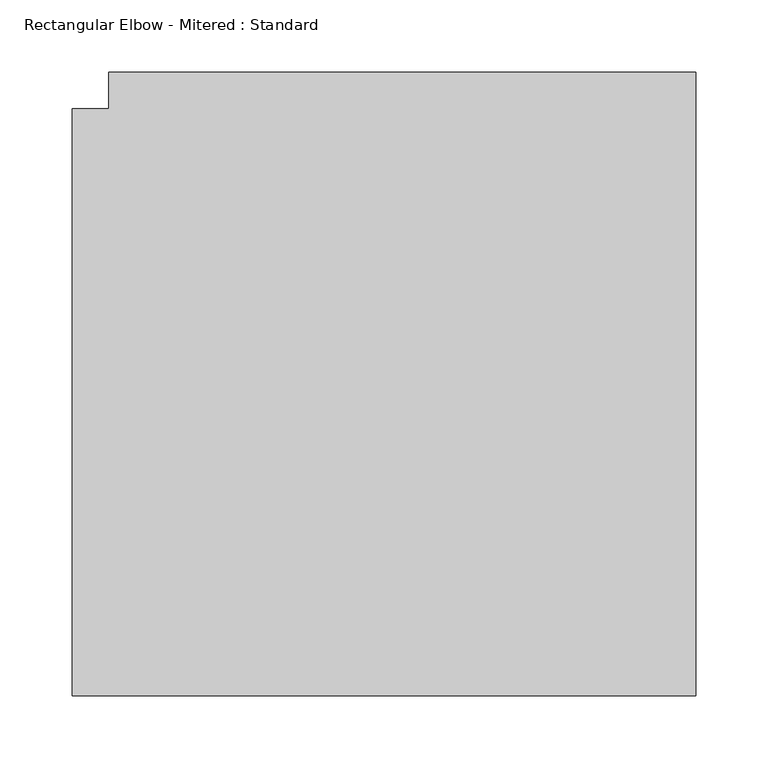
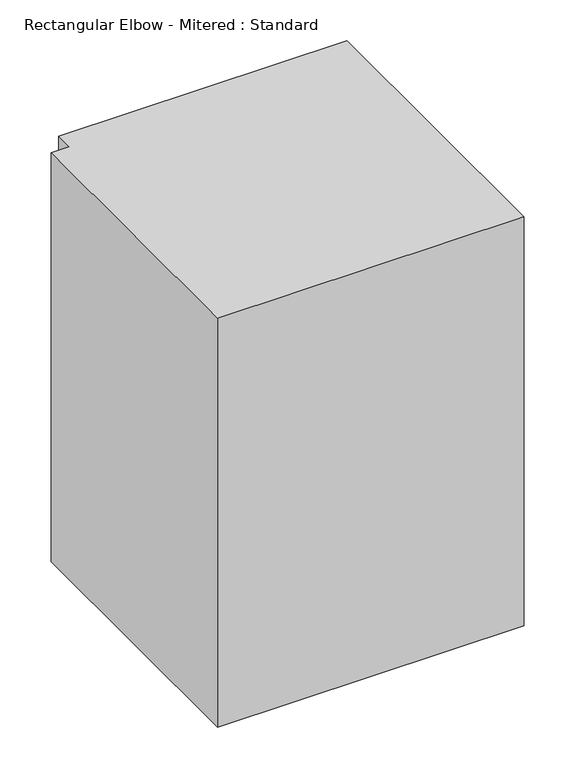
"""IFC4 building model written with IfcOpenShell, lengths in millimetres: duct fitting geometry, Rectangular Elbow - Mitered : Standard."""

import ifcopenshell
import ifcopenshell.guid

model = None  # the IFC model being written
_history = None  # IfcOwnerHistory: only IFC2X3 demands one
_inside = {}  # id of a spatial element -> (the spatial element, [elements in it])
_under = {}  # id of a project, library or spatial element -> (it, [spatial elements below it])
_declared = {}  # id of a project -> (the project, [libraries it declares])
_typed = {}  # id of a type object -> (the type object, [elements of that type])
_made_of = {}  # id of a material, layer set ... -> (it, [elements and type objects made of it])


def new_model(schema):
    """Start an empty IFC model of exactly this schema.

    Asked for "IFC4X3", IfcOpenShell would pick the latest addendum, in which some entities
    have other attributes; the version numbers below select the first issue.
    IFC2X3 requires an IfcOwnerHistory on every rooted entity: one is made here for all.
    """
    global model, _history
    if schema == "IFC4X3":
        model = ifcopenshell.file(schema_version=(4, 3, 0, 0))
    else:
        model = ifcopenshell.file(schema=schema)
    _inside.clear()
    _under.clear()
    _declared.clear()
    _typed.clear()
    _made_of.clear()
    _history = None
    if model.schema == "IFC2X3":
        org = make("IfcOrganization", Name="unknown")
        user = make(
            "IfcPersonAndOrganization",
            ThePerson=make("IfcPerson", FamilyName="unknown"),
            TheOrganization=org,
        )
        app = make(
            "IfcApplication",
            ApplicationDeveloper=org,
            Version="unknown",
            ApplicationFullName="unknown",
            ApplicationIdentifier="unknown",
        )
        _history = make(
            "IfcOwnerHistory",
            OwningUser=user,
            OwningApplication=app,
            ChangeAction="ADDED",
            CreationDate=0,
        )
    return model


def make(cls, **values):
    """One entity of the class cls with the attributes given. An attribute that is None is left unset."""
    return model.create_entity(
        cls, **{name: value for name, value in values.items() if value is not None}
    )


def rooted(cls, **values):
    """An entity with a GlobalId (a new one), such as an element, a storey or a relation."""
    return make(cls, GlobalId=ifcopenshell.guid.new(), OwnerHistory=_history, **values)


def si_unit(unit_type, name, prefix=None):
    """IfcSIUnit, for example si_unit("LENGTHUNIT", "METRE", prefix="MILLI")."""
    return make("IfcSIUnit", UnitType=unit_type, Prefix=prefix, Name=name)


def assignment(units):
    """IfcUnitAssignment: the units of a project."""
    return None if units is None else make("IfcUnitAssignment", Units=units)


def point(xyz):
    """IfcCartesianPoint."""
    return None if xyz is None else make("IfcCartesianPoint", Coordinates=xyz)


def direction(xyz):
    """IfcDirection."""
    return None if xyz is None else make("IfcDirection", DirectionRatios=xyz)


def frame(location, z_axis=None, x_axis=None):
    """IfcAxis2Placement3D, a coordinate frame: its origin and axes. An axis left out is left unset."""
    return make(
        "IfcAxis2Placement3D",
        Location=point(location),
        Axis=direction(z_axis),
        RefDirection=direction(x_axis),
    )


def origin():
    """The frame at (0, 0, 0) with its axes left unset."""
    return frame((0.0, 0.0, 0.0))


def place(relative_to, where):
    """IfcLocalPlacement: puts the frame where relative to a parent placement (None: the world)."""
    return make(
        "IfcLocalPlacement", PlacementRelTo=relative_to, RelativePlacement=where
    )


def context(
    kind, dimensions, precision=None, world=None, true_north=None, identifier=None
):
    """IfcGeometricRepresentationContext, for example the 3D "Model" context."""
    return make(
        "IfcGeometricRepresentationContext",
        ContextIdentifier=identifier,
        ContextType=kind,
        CoordinateSpaceDimension=dimensions,
        Precision=precision,
        WorldCoordinateSystem=world,
        TrueNorth=true_north,
    )


def project(units=None, contexts=None):
    """IfcProject with its units and contexts."""
    return rooted(
        "IfcProject",
        Name="project",
        RepresentationContexts=contexts,
        UnitsInContext=assignment(units),
    )


def spatial(cls, under=None, at=None, **own):
    """A site, building, storey or space (cls), placed at a placement, below another one or the project."""
    s = rooted(cls, ObjectPlacement=at, **own)
    if under is not None:
        _under.setdefault(under.id(), (under, []))[1].append(s)
    return s


def polyline(points):
    """IfcPolyline through the points."""
    return make("IfcPolyline", Points=[point(p) for p in points])


def outline(outer, holes=None, kind="AREA"):
    """IfcArbitraryClosedProfileDef: a profile drawn as a closed curve; with holes, ...WithVoids."""
    if holes is None:
        return make("IfcArbitraryClosedProfileDef", ProfileType=kind, OuterCurve=outer)
    return make(
        "IfcArbitraryProfileDefWithVoids",
        ProfileType=kind,
        OuterCurve=outer,
        InnerCurves=holes,
    )


def extrude(swept, where, along, depth):
    """IfcExtrudedAreaSolid: the profile swept, set in the frame where, extruded along a direction by depth."""
    return make(
        "IfcExtrudedAreaSolid",
        SweptArea=swept,
        Position=where,
        ExtrudedDirection=direction(along),
        Depth=depth,
    )


def shape(context_of_items, identifier, shape_type, items):
    """IfcShapeRepresentation: the items that make up one representation, for example the "Body"."""
    return make(
        "IfcShapeRepresentation",
        ContextOfItems=context_of_items,
        RepresentationIdentifier=identifier,
        RepresentationType=shape_type,
        Items=items,
    )


def source(mapping_origin, context_of_items, identifier, shape_type, items):
    """IfcRepresentationMap: a shape defined once, which mapped items show again and again."""
    return make(
        "IfcRepresentationMap",
        MappingOrigin=mapping_origin,
        MappedRepresentation=shape(context_of_items, identifier, shape_type, items),
    )


def transform(
    local_origin,
    x_axis=None,
    y_axis=None,
    z_axis=None,
    scale=None,
    scale2=None,
    scale3=None,
    uniform=True,
):
    """IfcCartesianTransformationOperator3D, or its non-uniform kind. x_axis, y_axis, z_axis: its Axis1, 2, 3."""
    if uniform:
        return make(
            "IfcCartesianTransformationOperator3D",
            Axis1=direction(x_axis),
            Axis2=direction(y_axis),
            LocalOrigin=point(local_origin),
            Scale=scale,
            Axis3=direction(z_axis),
        )
    return make(
        "IfcCartesianTransformationOperator3DnonUniform",
        Axis1=direction(x_axis),
        Axis2=direction(y_axis),
        LocalOrigin=point(local_origin),
        Scale=scale,
        Axis3=direction(z_axis),
        Scale2=scale2,
        Scale3=scale3,
    )


def mapped(mapping_source, mapping_target):
    """IfcMappedItem: shows the shape of a source again, moved by a transform."""
    return make(
        "IfcMappedItem", MappingSource=mapping_source, MappingTarget=mapping_target
    )


def made_of(thing, what):
    """Note that an element or type object is made of a material, layer set ...; save() writes the relation."""
    if what is not None:
        _made_of.setdefault(what.id(), (what, []))[1].append(thing)
    return thing


def element(
    cls,
    number,
    at=None,
    inside=None,
    cuts=None,
    type_object=None,
    material=None,
    context=None,
    identifier="Body",
    shape_type=None,
    held_by="IfcProductDefinitionShape",
    body=None,
    shapes=None,
    **own,
):
    """One element of the class cls, such as IfcWall. Its Tag is "e" and its number.

    at: its placement. inside: the storey or other place that contains it. cuts: it is an
    opening in that element (IfcRelVoidsElement). A single representation is given by context,
    identifier, shape_type and body (its items); several are given by shapes. held_by: the class
    of the entity that holds the representations. save() writes the other relations.
    """
    e = rooted(cls, Tag="e%d" % number, ObjectPlacement=at, **own)
    if body is not None:
        shapes = [shape(context, identifier, shape_type, body)]
    if shapes is not None:
        e.Representation = make(held_by, Representations=shapes)
    if inside is not None:
        _inside.setdefault(inside.id(), (inside, []))[1].append(e)
    if cuts is not None:
        rooted(
            "IfcRelVoidsElement", RelatingBuildingElement=cuts, RelatedOpeningElement=e
        )
    if type_object is not None:
        _typed.setdefault(type_object.id(), (type_object, []))[1].append(e)
    return made_of(e, material)


def aggregate(whole, parts):
    """IfcRelAggregates: a whole, such as a stair, and the parts it consists of."""
    return rooted("IfcRelAggregates", RelatingObject=whole, RelatedObjects=parts)


def save(model, path):
    """Write the relations noted so far, then the file.

    IfcRelAggregates (storeys below a building ...), IfcRelContainedInSpatialStructure (elements
    in a storey), IfcRelDefinesByType, IfcRelAssociatesMaterial and IfcRelDeclares: one each for
    every whole, place, type object, material and project.
    """
    for whole, parts in _under.values():
        aggregate(whole, parts)
    for where, things in _inside.values():
        rooted(
            "IfcRelContainedInSpatialStructure",
            RelatedElements=things,
            RelatingStructure=where,
        )
    for kind, things in _typed.values():
        rooted("IfcRelDefinesByType", RelatedObjects=things, RelatingType=kind)
    for what, things in _made_of.values():
        rooted("IfcRelAssociatesMaterial", RelatedObjects=things, RelatingMaterial=what)
    for by, libraries in _declared.values():
        rooted("IfcRelDeclares", RelatingContext=by, RelatedDefinitions=libraries)
    model.write(path)


def rectangular_elbow_mitered_standard_6d194a55(model_context):
    return source(origin(), model_context, "Body", "SweptSolid", [
        extrude(outline(polyline([(-228.6, -203.2), (-228.6, 203.2), (-203.2, 203.2), (-203.2, 228.6), (203.2, 228.6), (203.2, -203.2), (-228.6, -203.2)])), frame((0.0, 0.0, -304.8), z_axis=(0.0, 0.0, 1.0), x_axis=(1.0, 0.0, 0.0)), (0.0, 0.0, 1.0), 609.6),
    ])


if __name__ == "__main__":
    model = new_model("IFC4")
    model_context = context("Model", 3, world=origin())
    ifc_project = project(units=[si_unit("LENGTHUNIT", "METRE", prefix="MILLI")], contexts=[model_context])
    site = spatial("IfcSite", under=ifc_project)
    building = spatial("IfcBuilding", under=site)
    placement = place(None, origin())
    rectangular_elbow_mitered_standard_shape = rectangular_elbow_mitered_standard_6d194a55(model_context)
    element("IfcDuctFitting", 1, ObjectType="Rectangular Elbow - Mitered : Standard", at=placement, inside=building, context=model_context, shape_type="MappedRepresentation", body=[
        mapped(rectangular_elbow_mitered_standard_shape, transform((0.0, 0.0, 0.0), x_axis=(1.0, 0.0, 0.0), y_axis=(0.0, 1.0, 0.0), z_axis=(0.0, 0.0, 1.0))),
    ])
    save(model, "model.ifc")
